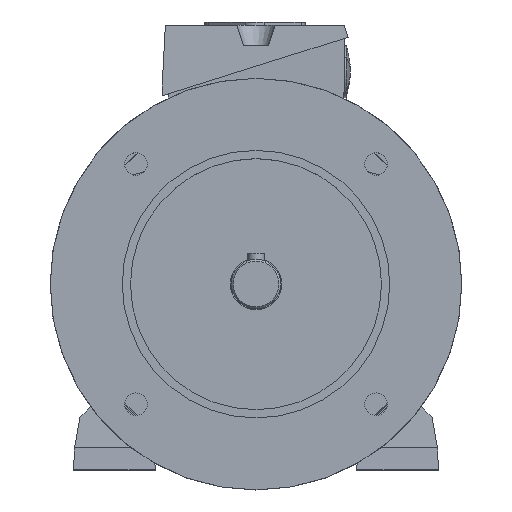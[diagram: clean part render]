
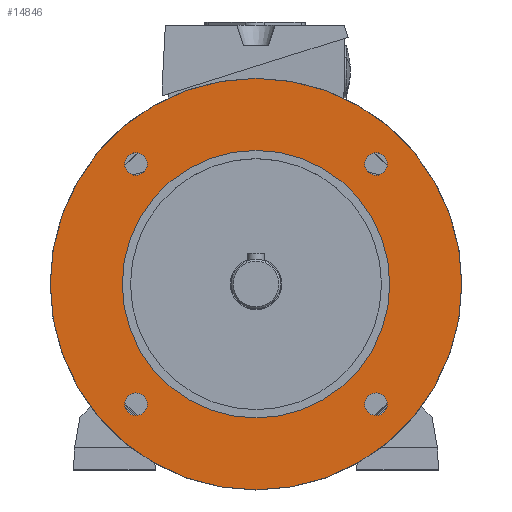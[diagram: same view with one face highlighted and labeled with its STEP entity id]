
A CAD part, top view. The second image highlights one B-rep face of the part: STEP entity #14846.
In plain terms, the highlighted planar face has unit normal (0, 0, 1).
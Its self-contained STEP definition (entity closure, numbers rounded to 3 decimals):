
#143 = EDGE_CURVE ( 'NONE', #10283, #9748, #13698, .T. ) ;
#277 = EDGE_CURVE ( 'NONE', #12328, #10873, #24898, .T. ) ;
#335 = EDGE_CURVE ( 'NONE', #13244, #17578, #20618, .T. ) ;
#408 = DIRECTION ( 'NONE',  ( 1., 0., 0. ) ) ;
#451 = DIRECTION ( 'NONE',  ( 0., 0., -1. ) ) ;
#800 = AXIS2_PLACEMENT_3D ( 'NONE', #23623, #11980, #408 ) ;
#1049 = CARTESIAN_POINT ( 'NONE',  ( 0., 0., 12. ) ) ;
#1360 = AXIS2_PLACEMENT_3D ( 'NONE', #9936, #23552, #11903 ) ;
#1366 = EDGE_CURVE ( 'NONE', #24560, #9307, #7790, .T. ) ;
#2644 = FACE_BOUND ( 'NONE', #21207, .T. ) ;
#3019 = DIRECTION ( 'NONE',  ( 1., 0., 0. ) ) ;
#3242 = DIRECTION ( 'NONE',  ( 0., 0., 1. ) ) ;
#3983 = CARTESIAN_POINT ( 'NONE',  ( -58.336, 58.336, 12. ) ) ;
#4186 = ORIENTED_EDGE ( 'NONE', *, *, #9626, .F. ) ;
#5115 = CARTESIAN_POINT ( 'NONE',  ( -100., 0., 12. ) ) ;
#5180 = DIRECTION ( 'NONE',  ( 0., 0., 1. ) ) ;
#5574 = EDGE_LOOP ( 'NONE', ( #8452, #7823 ) ) ;
#5646 = EDGE_CURVE ( 'NONE', #10873, #12328, #24174, .T. ) ;
#5935 = DIRECTION ( 'NONE',  ( 0., -1., 0. ) ) ;
#6150 = EDGE_CURVE ( 'NONE', #21279, #12720, #6815, .T. ) ;
#6815 = CIRCLE ( 'NONE', #14182, 5.5 ) ;
#7002 = DIRECTION ( 'NONE',  ( 0., 0., 1. ) ) ;
#7361 = ORIENTED_EDGE ( 'NONE', *, *, #23135, .F. ) ;
#7380 = EDGE_CURVE ( 'NONE', #9307, #24560, #22487, .T. ) ;
#7474 = EDGE_LOOP ( 'NONE', ( #23282, #4186 ) ) ;
#7506 = EDGE_CURVE ( 'NONE', #9748, #10283, #11843, .T. ) ;
#7758 = AXIS2_PLACEMENT_3D ( 'NONE', #3983, #17529, #5935 ) ;
#7759 = FACE_BOUND ( 'NONE', #8883, .T. ) ;
#7790 = CIRCLE ( 'NONE', #14775, 100. ) ;
#7823 = ORIENTED_EDGE ( 'NONE', *, *, #143, .F. ) ;
#8006 = CARTESIAN_POINT ( 'NONE',  ( 0., 0., 12. ) ) ;
#8213 = PLANE ( 'NONE',  #9095 ) ;
#8329 = CARTESIAN_POINT ( 'NONE',  ( -58.336, -58.336, 12. ) ) ;
#8452 = ORIENTED_EDGE ( 'NONE', *, *, #7506, .F. ) ;
#8759 = CARTESIAN_POINT ( 'NONE',  ( 58.336, -58.336, 12. ) ) ;
#8883 = EDGE_LOOP ( 'NONE', ( #9560, #23215 ) ) ;
#9095 = AXIS2_PLACEMENT_3D ( 'NONE', #10138, #451, #12106 ) ;
#9307 = VERTEX_POINT ( 'NONE', #5115 ) ;
#9323 = AXIS2_PLACEMENT_3D ( 'NONE', #14824, #3242, #16771 ) ;
#9376 = DIRECTION ( 'NONE',  ( 0., 0., 1. ) ) ;
#9560 = ORIENTED_EDGE ( 'NONE', *, *, #277, .F. ) ;
#9626 = EDGE_CURVE ( 'NONE', #23020, #18579, #15705, .T. ) ;
#9748 = VERTEX_POINT ( 'NONE', #13292 ) ;
#9931 = DIRECTION ( 'NONE',  ( 1., 0., 0. ) ) ;
#9936 = CARTESIAN_POINT ( 'NONE',  ( -58.336, 58.336, 12. ) ) ;
#10138 = CARTESIAN_POINT ( 'NONE',  ( 0., 65., 12. ) ) ;
#10255 = DIRECTION ( 'NONE',  ( 1., 0., 0. ) ) ;
#10283 = VERTEX_POINT ( 'NONE', #20988 ) ;
#10367 = AXIS2_PLACEMENT_3D ( 'NONE', #16785, #5180, #18761 ) ;
#10692 = DIRECTION ( 'NONE',  ( 0., 1., 0. ) ) ;
#10698 = ORIENTED_EDGE ( 'NONE', *, *, #7380, .T. ) ;
#10873 = VERTEX_POINT ( 'NONE', #24523 ) ;
#11149 = CARTESIAN_POINT ( 'NONE',  ( 58.336, 58.336, 12. ) ) ;
#11217 = CIRCLE ( 'NONE', #13272, 65. ) ;
#11280 = AXIS2_PLACEMENT_3D ( 'NONE', #8329, #21928, #10255 ) ;
#11843 = CIRCLE ( 'NONE', #9323, 5.5 ) ;
#11903 = DIRECTION ( 'NONE',  ( 0., -1., 0. ) ) ;
#11980 = DIRECTION ( 'NONE',  ( 0., 0., 1. ) ) ;
#12106 = DIRECTION ( 'NONE',  ( -1., 0., 0. ) ) ;
#12289 = FACE_OUTER_BOUND ( 'NONE', #15762, .T. ) ;
#12328 = VERTEX_POINT ( 'NONE', #18463 ) ;
#12720 = VERTEX_POINT ( 'NONE', #19815 ) ;
#12744 = ORIENTED_EDGE ( 'NONE', *, *, #6150, .F. ) ;
#12890 = AXIS2_PLACEMENT_3D ( 'NONE', #18638, #7002, #20551 ) ;
#12900 = FACE_BOUND ( 'NONE', #20198, .T. ) ;
#13124 = DIRECTION ( 'NONE',  ( -1., 0., 0. ) ) ;
#13244 = VERTEX_POINT ( 'NONE', #17408 ) ;
#13272 = AXIS2_PLACEMENT_3D ( 'NONE', #8006, #21591, #9931 ) ;
#13292 = CARTESIAN_POINT ( 'NONE',  ( 63.836, -58.336, 12. ) ) ;
#13698 = CIRCLE ( 'NONE', #14748, 5.5 ) ;
#14182 = AXIS2_PLACEMENT_3D ( 'NONE', #11149, #24752, #13124 ) ;
#14330 = CARTESIAN_POINT ( 'NONE',  ( 65., 0., 12. ) ) ;
#14592 = DIRECTION ( 'NONE',  ( 0., 0., 1. ) ) ;
#14748 = AXIS2_PLACEMENT_3D ( 'NONE', #8759, #22366, #10692 ) ;
#14772 = CARTESIAN_POINT ( 'NONE',  ( -63.836, -58.336, 12. ) ) ;
#14775 = AXIS2_PLACEMENT_3D ( 'NONE', #1049, #14592, #3019 ) ;
#14824 = CARTESIAN_POINT ( 'NONE',  ( 58.336, -58.336, 12. ) ) ;
#14846 = ADVANCED_FACE ( 'NONE', ( #18700, #2644, #7759, #12900, #17483, #12289 ), #8213, .F. ) ;
#15047 = AXIS2_PLACEMENT_3D ( 'NONE', #21017, #9376, #22977 ) ;
#15705 = CIRCLE ( 'NONE', #10367, 65. ) ;
#15762 = EDGE_LOOP ( 'NONE', ( #18059, #10698 ) ) ;
#16076 = CARTESIAN_POINT ( 'NONE',  ( -65., 0., 12. ) ) ;
#16415 = CARTESIAN_POINT ( 'NONE',  ( 100., 0., 12. ) ) ;
#16771 = DIRECTION ( 'NONE',  ( 0., 1., 0. ) ) ;
#16785 = CARTESIAN_POINT ( 'NONE',  ( 0., 0., 12. ) ) ;
#17120 = ORIENTED_EDGE ( 'NONE', *, *, #335, .F. ) ;
#17408 = CARTESIAN_POINT ( 'NONE',  ( -52.836, -58.336, 12. ) ) ;
#17483 = FACE_BOUND ( 'NONE', #7474, .T. ) ;
#17529 = DIRECTION ( 'NONE',  ( 0., 0., 1. ) ) ;
#17578 = VERTEX_POINT ( 'NONE', #14772 ) ;
#17966 = CIRCLE ( 'NONE', #11280, 5.5 ) ;
#18059 = ORIENTED_EDGE ( 'NONE', *, *, #1366, .T. ) ;
#18458 = CIRCLE ( 'NONE', #12890, 5.5 ) ;
#18463 = CARTESIAN_POINT ( 'NONE',  ( -52.836, 58.336, 12. ) ) ;
#18579 = VERTEX_POINT ( 'NONE', #14330 ) ;
#18638 = CARTESIAN_POINT ( 'NONE',  ( 58.336, 58.336, 12. ) ) ;
#18700 = FACE_BOUND ( 'NONE', #5574, .T. ) ;
#18761 = DIRECTION ( 'NONE',  ( 1., 0., 0. ) ) ;
#19417 = CARTESIAN_POINT ( 'NONE',  ( 52.836, 58.336, 12. ) ) ;
#19815 = CARTESIAN_POINT ( 'NONE',  ( 63.836, 58.336, 12. ) ) ;
#20198 = EDGE_LOOP ( 'NONE', ( #17120, #22614 ) ) ;
#20551 = DIRECTION ( 'NONE',  ( -1., 0., 0. ) ) ;
#20618 = CIRCLE ( 'NONE', #800, 5.5 ) ;
#20988 = CARTESIAN_POINT ( 'NONE',  ( 52.836, -58.336, 12. ) ) ;
#21017 = CARTESIAN_POINT ( 'NONE',  ( 0., 0., 12. ) ) ;
#21207 = EDGE_LOOP ( 'NONE', ( #7361, #12744 ) ) ;
#21279 = VERTEX_POINT ( 'NONE', #19417 ) ;
#21591 = DIRECTION ( 'NONE',  ( 0., 0., 1. ) ) ;
#21853 = EDGE_CURVE ( 'NONE', #17578, #13244, #17966, .T. ) ;
#21928 = DIRECTION ( 'NONE',  ( 0., 0., 1. ) ) ;
#22366 = DIRECTION ( 'NONE',  ( 0., 0., 1. ) ) ;
#22487 = CIRCLE ( 'NONE', #15047, 100. ) ;
#22614 = ORIENTED_EDGE ( 'NONE', *, *, #21853, .F. ) ;
#22977 = DIRECTION ( 'NONE',  ( 1., 0., 0. ) ) ;
#23020 = VERTEX_POINT ( 'NONE', #16076 ) ;
#23135 = EDGE_CURVE ( 'NONE', #12720, #21279, #18458, .T. ) ;
#23215 = ORIENTED_EDGE ( 'NONE', *, *, #5646, .F. ) ;
#23282 = ORIENTED_EDGE ( 'NONE', *, *, #24889, .F. ) ;
#23552 = DIRECTION ( 'NONE',  ( 0., 0., 1. ) ) ;
#23623 = CARTESIAN_POINT ( 'NONE',  ( -58.336, -58.336, 12. ) ) ;
#24174 = CIRCLE ( 'NONE', #1360, 5.5 ) ;
#24523 = CARTESIAN_POINT ( 'NONE',  ( -63.836, 58.336, 12. ) ) ;
#24560 = VERTEX_POINT ( 'NONE', #16415 ) ;
#24752 = DIRECTION ( 'NONE',  ( 0., 0., 1. ) ) ;
#24889 = EDGE_CURVE ( 'NONE', #18579, #23020, #11217, .T. ) ;
#24898 = CIRCLE ( 'NONE', #7758, 5.5 ) ;
